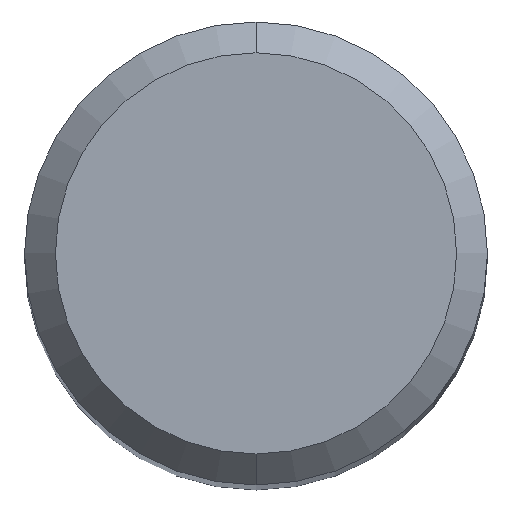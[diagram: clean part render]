
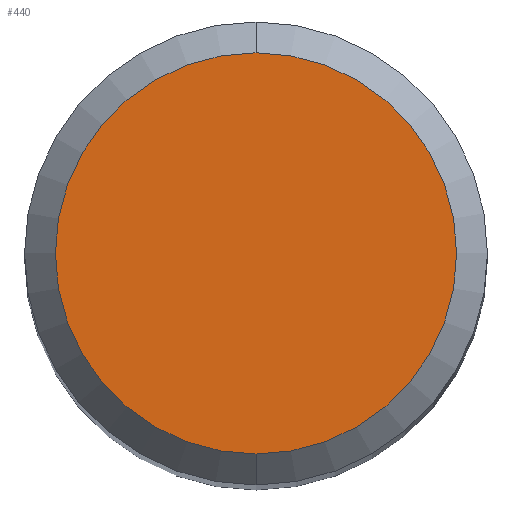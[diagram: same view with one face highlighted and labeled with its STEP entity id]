
A CAD part, top view. The second image highlights one B-rep face of the part: STEP entity #440.
In plain terms, the highlighted planar face has unit normal (0, 0, 1).
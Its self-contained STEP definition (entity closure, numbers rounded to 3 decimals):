
#200=EDGE_CURVE('',#382,#252,#512,.T.);
#252=VERTEX_POINT('',#569);
#382=VERTEX_POINT('',#715);
#392=EDGE_CURVE('',#252,#382,#725,.T.);
#440=ADVANCED_FACE('',(#778),#779,.T.);
#512=CIRCLE('',#874,2.6);
#569=CARTESIAN_POINT('',(0.0,2.6,0.0));
#715=CARTESIAN_POINT('',(0.,-2.6,0.0));
#725=CIRCLE('',#1315,2.6);
#778=FACE_OUTER_BOUND('',#1387,.T.);
#779=PLANE('',#1388);
#874=AXIS2_PLACEMENT_3D('',#1486,#1487,#1488);
#1315=AXIS2_PLACEMENT_3D('',#1738,#1739,#1740);
#1387=EDGE_LOOP('',(#1789,#1790));
#1388=AXIS2_PLACEMENT_3D('',#1791,#1792,#1793);
#1486=CARTESIAN_POINT('',(0.0,0.0,0.0));
#1487=DIRECTION('',(0.0,0.0,-1.0));
#1488=DIRECTION('',(0.0,1.0,0.0));
#1738=CARTESIAN_POINT('',(0.0,0.0,0.0));
#1739=DIRECTION('',(0.0,0.0,-1.0));
#1740=DIRECTION('',(0.0,1.0,0.0));
#1789=ORIENTED_EDGE('',*,*,#392,.F.);
#1790=ORIENTED_EDGE('',*,*,#200,.F.);
#1791=CARTESIAN_POINT('',(0.0,1.3,0.0));
#1792=DIRECTION('',(-0.0,0.0,1.0));
#1793=DIRECTION('',(0.0,-1.0,0.0));
